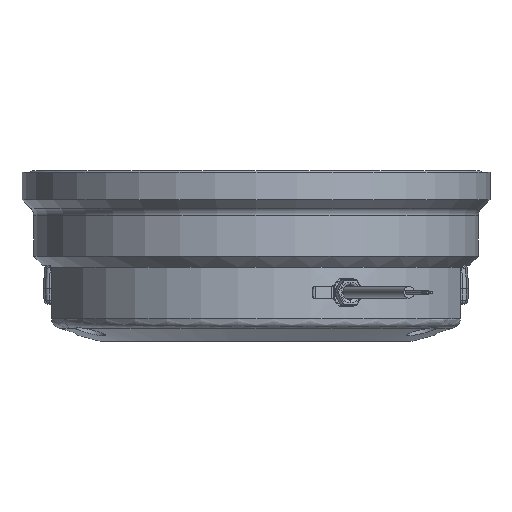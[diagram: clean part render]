
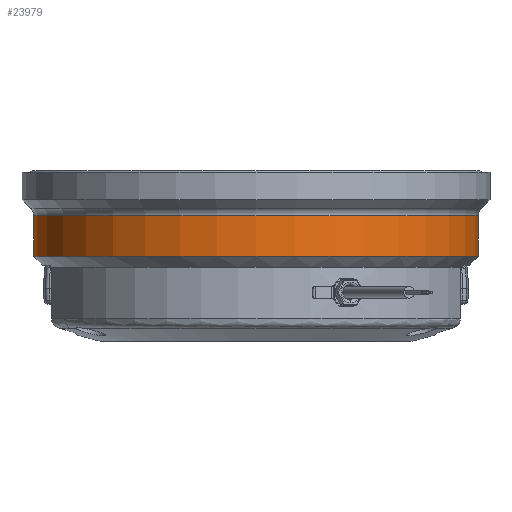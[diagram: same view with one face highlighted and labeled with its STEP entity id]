
A CAD part, front view. The second image highlights one B-rep face of the part: STEP entity #23979.
In plain terms, the highlighted cylindrical face has radius 114 mm (diameter 228 mm), a partial arc.
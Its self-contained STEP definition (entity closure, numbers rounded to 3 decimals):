
#2682 = LINE ( 'NONE', #26552, #15057 ) ;
#2742 = VERTEX_POINT ( 'NONE', #25057 ) ;
#3127 = EDGE_CURVE ( 'NONE', #32910, #9655, #37291, .T. ) ;
#3684 = CARTESIAN_POINT ( 'NONE',  ( 114., 0., 0. ) ) ;
#4323 = DIRECTION ( 'NONE',  ( 0., 0., 1. ) ) ;
#8781 = ORIENTED_EDGE ( 'NONE', *, *, #9051, .F. ) ;
#9051 = EDGE_CURVE ( 'NONE', #36113, #9655, #2682, .T. ) ;
#9176 = AXIS2_PLACEMENT_3D ( 'NONE', #26795, #16108, #26146 ) ;
#9655 = VERTEX_POINT ( 'NONE', #24108 ) ;
#11092 = EDGE_LOOP ( 'NONE', ( #8781, #31721, #17889, #21367 ) ) ;
#11294 = CIRCLE ( 'NONE', #9176, 114. ) ;
#11923 = FACE_OUTER_BOUND ( 'NONE', #11092, .T. ) ;
#15057 = VECTOR ( 'NONE', #39124, 1000. ) ;
#15618 = CARTESIAN_POINT ( 'NONE',  ( 0., 0., -22.071 ) ) ;
#16108 = DIRECTION ( 'NONE',  ( 0., 0., 1. ) ) ;
#16896 = EDGE_CURVE ( 'NONE', #2742, #32910, #34150, .T. ) ;
#17889 = ORIENTED_EDGE ( 'NONE', *, *, #16896, .T. ) ;
#18396 = EDGE_CURVE ( 'NONE', #36113, #2742, #11294, .T. ) ;
#18847 = CARTESIAN_POINT ( 'NONE',  ( 114., 0., -22.071 ) ) ;
#21367 = ORIENTED_EDGE ( 'NONE', *, *, #3127, .T. ) ;
#23979 = ADVANCED_FACE ( 'NONE', ( #11923 ), #25283, .T. ) ;
#24108 = CARTESIAN_POINT ( 'NONE',  ( -114., 0., -22.071 ) ) ;
#25057 = CARTESIAN_POINT ( 'NONE',  ( 114., 0., -43. ) ) ;
#25283 = CYLINDRICAL_SURFACE ( 'NONE', #37063, 114. ) ;
#25876 = CARTESIAN_POINT ( 'NONE',  ( -114., 0., -43. ) ) ;
#26146 = DIRECTION ( 'NONE',  ( 1., 0., 0. ) ) ;
#26552 = CARTESIAN_POINT ( 'NONE',  ( -114., 0., 0. ) ) ;
#26795 = CARTESIAN_POINT ( 'NONE',  ( 0., 0., -43. ) ) ;
#28720 = DIRECTION ( 'NONE',  ( 0., 0., -1. ) ) ;
#28835 = AXIS2_PLACEMENT_3D ( 'NONE', #15618, #28720, #42122 ) ;
#31721 = ORIENTED_EDGE ( 'NONE', *, *, #18396, .T. ) ;
#32100 = DIRECTION ( 'NONE',  ( 1., 0., 0. ) ) ;
#32535 = CARTESIAN_POINT ( 'NONE',  ( 0., 0., 0. ) ) ;
#32910 = VERTEX_POINT ( 'NONE', #18847 ) ;
#34150 = LINE ( 'NONE', #3684, #42457 ) ;
#36113 = VERTEX_POINT ( 'NONE', #25876 ) ;
#37063 = AXIS2_PLACEMENT_3D ( 'NONE', #32535, #38721, #32100 ) ;
#37291 = CIRCLE ( 'NONE', #28835, 114. ) ;
#38721 = DIRECTION ( 'NONE',  ( 0., 0., 1. ) ) ;
#39124 = DIRECTION ( 'NONE',  ( 0., 0., 1. ) ) ;
#42122 = DIRECTION ( 'NONE',  ( 1., 0., 0. ) ) ;
#42457 = VECTOR ( 'NONE', #4323, 1000. ) ;
